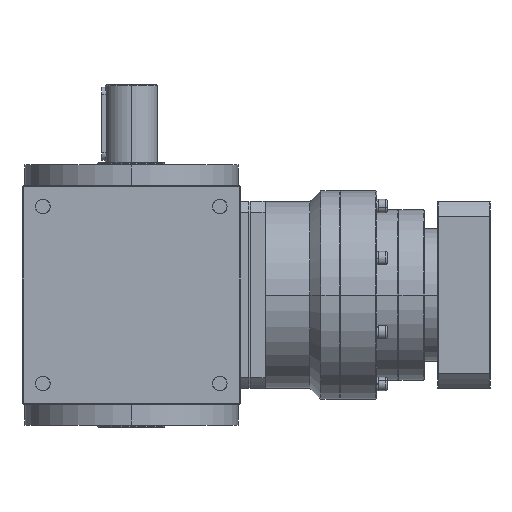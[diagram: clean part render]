
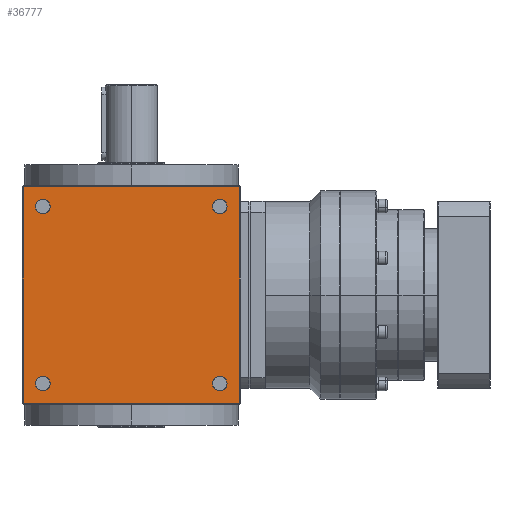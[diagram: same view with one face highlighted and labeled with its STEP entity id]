
A CAD part, left-side view. The second image highlights one B-rep face of the part: STEP entity #36777.
In plain terms, the highlighted planar face has unit normal (-1, 0, 0).
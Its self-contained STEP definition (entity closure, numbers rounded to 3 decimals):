
#231 = EDGE_CURVE ( 'NONE', #40960, #10643, #837, .T. ) ;
#334 = VERTEX_POINT ( 'NONE', #8971 ) ;
#678 = CARTESIAN_POINT ( 'NONE',  ( -105., 85., 78. ) ) ;
#837 = CIRCLE ( 'NONE', #27682, 7. ) ;
#1842 = AXIS2_PLACEMENT_3D ( 'NONE', #25016, #5924, #32174 ) ;
#2050 = CARTESIAN_POINT ( 'NONE',  ( -105., -85., 92. ) ) ;
#2071 = EDGE_CURVE ( 'NONE', #10436, #334, #12205, .T. ) ;
#2705 = CARTESIAN_POINT ( 'NONE',  ( -105., -85., -78. ) ) ;
#3453 = CIRCLE ( 'NONE', #32307, 7. ) ;
#3539 = CARTESIAN_POINT ( 'NONE',  ( -105., 85., 85. ) ) ;
#4195 = ORIENTED_EDGE ( 'NONE', *, *, #2071, .T. ) ;
#5781 = DIRECTION ( 'NONE',  ( 1., 0., 0. ) ) ;
#5859 = CIRCLE ( 'NONE', #1842, 7. ) ;
#5924 = DIRECTION ( 'NONE',  ( 1., 0., 0. ) ) ;
#6178 = DIRECTION ( 'NONE',  ( 0., 0., 1. ) ) ;
#6335 = VECTOR ( 'NONE', #28165, 1000. ) ;
#6482 = DIRECTION ( 'NONE',  ( 1., 0., 0. ) ) ;
#6556 = EDGE_LOOP ( 'NONE', ( #36179, #19802 ) ) ;
#6927 = DIRECTION ( 'NONE',  ( 0., -1., 0. ) ) ;
#7505 = EDGE_CURVE ( 'NONE', #16041, #25567, #5859, .T. ) ;
#7629 = VECTOR ( 'NONE', #24587, 1000. ) ;
#8331 = CIRCLE ( 'NONE', #14929, 7. ) ;
#8821 = DIRECTION ( 'NONE',  ( 0., 1., 0. ) ) ;
#8971 = CARTESIAN_POINT ( 'NONE',  ( -105., 104., -104. ) ) ;
#9533 = CIRCLE ( 'NONE', #16266, 7. ) ;
#9662 = DIRECTION ( 'NONE',  ( -1., 0., 0. ) ) ;
#9775 = CARTESIAN_POINT ( 'NONE',  ( -105., 85., -85. ) ) ;
#10173 = ORIENTED_EDGE ( 'NONE', *, *, #231, .T. ) ;
#10436 = VERTEX_POINT ( 'NONE', #32214 ) ;
#10643 = VERTEX_POINT ( 'NONE', #2705 ) ;
#10893 = CARTESIAN_POINT ( 'NONE',  ( -105., -85., -92. ) ) ;
#11758 = CARTESIAN_POINT ( 'NONE',  ( -105., 0., 104. ) ) ;
#11796 = CARTESIAN_POINT ( 'NONE',  ( -105., 104., -105. ) ) ;
#12114 = ORIENTED_EDGE ( 'NONE', *, *, #14386, .T. ) ;
#12205 = LINE ( 'NONE', #11796, #6335 ) ;
#12412 = CARTESIAN_POINT ( 'NONE',  ( -105., 105., -104. ) ) ;
#12514 = EDGE_CURVE ( 'NONE', #30097, #32161, #3453, .T. ) ;
#12891 = DIRECTION ( 'NONE',  ( 1., 0., 0. ) ) ;
#13419 = EDGE_CURVE ( 'NONE', #32161, #30097, #9533, .T. ) ;
#14386 = EDGE_CURVE ( 'NONE', #39592, #10436, #24768, .T. ) ;
#14575 = CIRCLE ( 'NONE', #40716, 7. ) ;
#14676 = EDGE_CURVE ( 'NONE', #40591, #18223, #26976, .T. ) ;
#14689 = DIRECTION ( 'NONE',  ( 0., 0., 1. ) ) ;
#14929 = AXIS2_PLACEMENT_3D ( 'NONE', #23514, #20376, #14689 ) ;
#16041 = VERTEX_POINT ( 'NONE', #2050 ) ;
#16090 = VECTOR ( 'NONE', #40131, 1000. ) ;
#16266 = AXIS2_PLACEMENT_3D ( 'NONE', #22156, #12891, #6178 ) ;
#16351 = CARTESIAN_POINT ( 'NONE',  ( -105., 85., 92. ) ) ;
#17664 = CARTESIAN_POINT ( 'NONE',  ( -105., -104., -105. ) ) ;
#17735 = EDGE_LOOP ( 'NONE', ( #25594, #12114, #4195, #20437 ) ) ;
#18223 = VERTEX_POINT ( 'NONE', #27359 ) ;
#18684 = EDGE_CURVE ( 'NONE', #27239, #39592, #20814, .T. ) ;
#19660 = ORIENTED_EDGE ( 'NONE', *, *, #28506, .T. ) ;
#19802 = ORIENTED_EDGE ( 'NONE', *, *, #25187, .T. ) ;
#19957 = PLANE ( 'NONE',  #26659 ) ;
#20376 = DIRECTION ( 'NONE',  ( 1., 0., 0. ) ) ;
#20437 = ORIENTED_EDGE ( 'NONE', *, *, #24939, .F. ) ;
#20814 = LINE ( 'NONE', #17664, #16090 ) ;
#20956 = CARTESIAN_POINT ( 'NONE',  ( -105., -85., -85. ) ) ;
#22156 = CARTESIAN_POINT ( 'NONE',  ( -105., 85., 85. ) ) ;
#22367 = DIRECTION ( 'NONE',  ( 0., 0., 1. ) ) ;
#22546 = EDGE_LOOP ( 'NONE', ( #19660, #10173 ) ) ;
#22979 = CIRCLE ( 'NONE', #33731, 7. ) ;
#23514 = CARTESIAN_POINT ( 'NONE',  ( -105., -85., 85. ) ) ;
#24022 = EDGE_CURVE ( 'NONE', #18223, #40591, #22979, .T. ) ;
#24587 = DIRECTION ( 'NONE',  ( 0., 1., 0. ) ) ;
#24590 = ORIENTED_EDGE ( 'NONE', *, *, #13419, .T. ) ;
#24768 = LINE ( 'NONE', #11758, #39785 ) ;
#24939 = EDGE_CURVE ( 'NONE', #27239, #334, #27748, .T. ) ;
#25016 = CARTESIAN_POINT ( 'NONE',  ( -105., -85., 85. ) ) ;
#25187 = EDGE_CURVE ( 'NONE', #25567, #16041, #8331, .T. ) ;
#25567 = VERTEX_POINT ( 'NONE', #38786 ) ;
#25594 = ORIENTED_EDGE ( 'NONE', *, *, #18684, .T. ) ;
#25600 = FACE_OUTER_BOUND ( 'NONE', #17735, .T. ) ;
#25686 = CARTESIAN_POINT ( 'NONE',  ( -105., -104., 104. ) ) ;
#25810 = FACE_BOUND ( 'NONE', #29515, .T. ) ;
#26052 = EDGE_LOOP ( 'NONE', ( #27905, #24590 ) ) ;
#26235 = FACE_BOUND ( 'NONE', #6556, .T. ) ;
#26419 = CARTESIAN_POINT ( 'NONE',  ( -105., 85., -85. ) ) ;
#26659 = AXIS2_PLACEMENT_3D ( 'NONE', #38645, #9662, #6927 ) ;
#26688 = CARTESIAN_POINT ( 'NONE',  ( -105., 85., -78. ) ) ;
#26819 = DIRECTION ( 'NONE',  ( 1., 0., 0. ) ) ;
#26976 = CIRCLE ( 'NONE', #30325, 7. ) ;
#27030 = DIRECTION ( 'NONE',  ( 1., 0., 0. ) ) ;
#27239 = VERTEX_POINT ( 'NONE', #30111 ) ;
#27359 = CARTESIAN_POINT ( 'NONE',  ( -105., 85., -92. ) ) ;
#27682 = AXIS2_PLACEMENT_3D ( 'NONE', #20956, #26819, #33147 ) ;
#27748 = LINE ( 'NONE', #12412, #7629 ) ;
#27905 = ORIENTED_EDGE ( 'NONE', *, *, #12514, .T. ) ;
#28165 = DIRECTION ( 'NONE',  ( 0., 0., -1. ) ) ;
#28506 = EDGE_CURVE ( 'NONE', #10643, #40960, #14575, .T. ) ;
#29171 = DIRECTION ( 'NONE',  ( 0., 0., 1. ) ) ;
#29192 = FACE_BOUND ( 'NONE', #26052, .T. ) ;
#29255 = ORIENTED_EDGE ( 'NONE', *, *, #14676, .T. ) ;
#29515 = EDGE_LOOP ( 'NONE', ( #29255, #32666 ) ) ;
#30097 = VERTEX_POINT ( 'NONE', #16351 ) ;
#30111 = CARTESIAN_POINT ( 'NONE',  ( -105., -104., -104. ) ) ;
#30325 = AXIS2_PLACEMENT_3D ( 'NONE', #26419, #27030, #36099 ) ;
#31626 = CARTESIAN_POINT ( 'NONE',  ( -105., -85., -85. ) ) ;
#32161 = VERTEX_POINT ( 'NONE', #678 ) ;
#32174 = DIRECTION ( 'NONE',  ( 0., 0., 1. ) ) ;
#32214 = CARTESIAN_POINT ( 'NONE',  ( -105., 104., 104. ) ) ;
#32307 = AXIS2_PLACEMENT_3D ( 'NONE', #3539, #6482, #29171 ) ;
#32666 = ORIENTED_EDGE ( 'NONE', *, *, #24022, .T. ) ;
#33147 = DIRECTION ( 'NONE',  ( 0., 0., 1. ) ) ;
#33731 = AXIS2_PLACEMENT_3D ( 'NONE', #9775, #38349, #41287 ) ;
#36099 = DIRECTION ( 'NONE',  ( 0., 0., 1. ) ) ;
#36179 = ORIENTED_EDGE ( 'NONE', *, *, #7505, .T. ) ;
#36777 = ADVANCED_FACE ( 'NONE', ( #25600, #26235, #25810, #38438, #29192 ), #19957, .T. ) ;
#38349 = DIRECTION ( 'NONE',  ( 1., 0., 0. ) ) ;
#38438 = FACE_BOUND ( 'NONE', #22546, .T. ) ;
#38645 = CARTESIAN_POINT ( 'NONE',  ( -105., 105., -105. ) ) ;
#38786 = CARTESIAN_POINT ( 'NONE',  ( -105., -85., 78. ) ) ;
#39592 = VERTEX_POINT ( 'NONE', #25686 ) ;
#39785 = VECTOR ( 'NONE', #8821, 1000. ) ;
#40131 = DIRECTION ( 'NONE',  ( 0., 0., 1. ) ) ;
#40591 = VERTEX_POINT ( 'NONE', #26688 ) ;
#40716 = AXIS2_PLACEMENT_3D ( 'NONE', #31626, #5781, #22367 ) ;
#40960 = VERTEX_POINT ( 'NONE', #10893 ) ;
#41287 = DIRECTION ( 'NONE',  ( 0., 0., 1. ) ) ;
